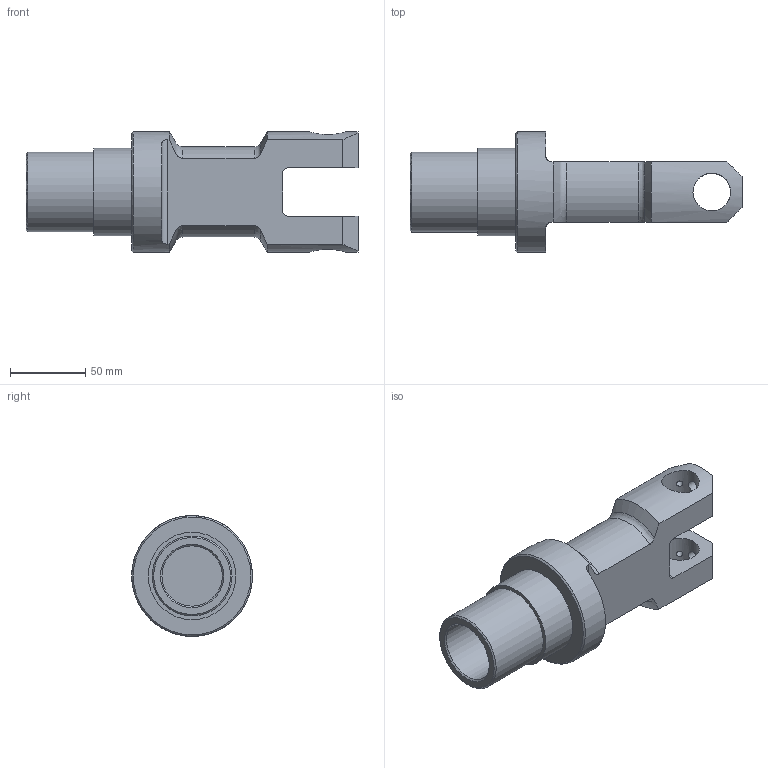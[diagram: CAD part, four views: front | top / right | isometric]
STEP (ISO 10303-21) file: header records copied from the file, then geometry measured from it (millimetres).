
FILE_DESCRIPTION(('STEP AP203'),'1');
FILE_NAME('Shaft.step','2019-02-15T08:38:44',(' '),(' '),'Spatial InterOp 3D',' ',' ');
FILE_SCHEMA(('CONFIG_CONTROL_DESIGN'));
Length unit declared in the file: millimetre
Products named in the file (1): 1
Bounding box: 220 x 79.87 x 80 mm (x, y, z)
Volume: 439126.7 mm3; surface area: 65839.8 mm2
Topology: 1 solids, 1 shells, 52 faces, 144 edges, 95 vertices
Faces by surface type: cylinder 21, plane 17, cone 10, torus 4
Full cylindrical faces by diameter (mm): 4.2 x2, 6 x2, 8 x2, 20 x1, 25 x2, 40 x1, 53 x1, 58 x1, 80 x1
Entity records: 1954 total; most frequent: CARTESIAN_POINT 682, DIRECTION 238, ORIENTED_EDGE 228, EDGE_CURVE 114, AXIS2_PLACEMENT_3D 99, EDGE_LOOP 90, VERTEX_POINT 87, FACE_OUTER_BOUND 65
